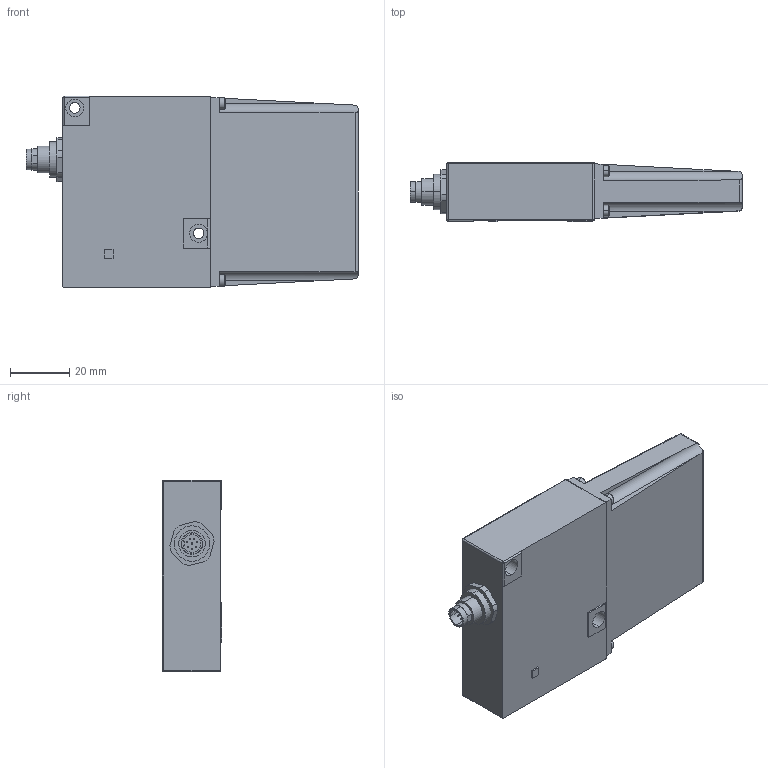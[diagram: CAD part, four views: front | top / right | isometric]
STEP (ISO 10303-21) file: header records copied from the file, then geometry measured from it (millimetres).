
FILE_DESCRIPTION (( 'STEP AP203' ), '1' );
FILE_NAME ('RF603_CC + Áëåíäà.STEP', '2011-03-17T08:18:45', ( 'Ñåðãåé Ì' ), ( '' ), 'SwSTEP 2.0', 'SolidWorks 2009', '' );
FILE_SCHEMA (( 'CONFIG_CONTROL_DESIGN' ));
Length unit declared in the file: millimetre
Products named in the file (7): RF603.00.51; Raz_09_0427_80_08_Default; RF603.00.04; RF603_CC + 鍛樇魡; G Raz_09_0427_80_08; DIN 912 _Ì2õ6_Default; ISO 14581_Ì2õ4_Default
Assembly tree (11 placements, depth 2):
  RF603_CC + 鍛樇魡
    DIN 912 _Ì2õ6_Default  x4
    ISO 14581_Ì2õ4_Default  x3
    RF603.00.51
    RF603.00.04
    Raz_09_0427_80_08_Default
    G Raz_09_0427_80_08
Bounding box: 112.5 x 20 x 65 mm (x, y, z)
Volume: 81598.7 mm3; surface area: 28632.9 mm2
Topology: 11 solids, 11 shells, 434 faces, 1048 edges, 666 vertices
Faces by surface type: plane 205, cylinder 174, cone 50, sphere 5
Entity records: 11171 total; most frequent: CARTESIAN_POINT 2071, DIRECTION 1808, ORIENTED_EDGE 1650, EDGE_CURVE 825, AXIS2_PLACEMENT_3D 675, VERTEX_POINT 532, LINE 458, VECTOR 458
